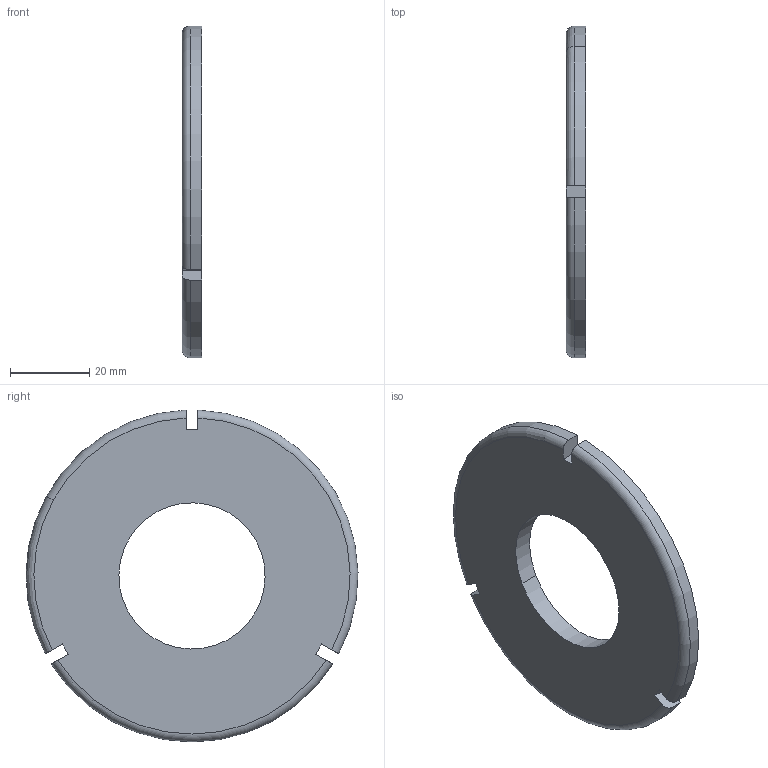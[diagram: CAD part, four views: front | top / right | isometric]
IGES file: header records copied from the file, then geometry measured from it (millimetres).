
Start section: START RECORD GO HERE.
Global section: file name: CALE 2.igs; native system: IBM CATIA IGES - CATIA Version 5 Release 18 ; preprocessor: CATIA Version 5 Release 18 ; author: Propriétaire; organization: FUJITSU-79916BB; date: 20090111.155608; units: millimetre
Bounding box: 5 x 83.99 x 83.97 mm (x, y, z)
Surface area: 10667.4 mm2 (no closed solid volume)
Topology: 0 solids, 0 shells, 21 faces, 112 edges, 112 vertices
Faces by surface type: plane 11, revolution 10
